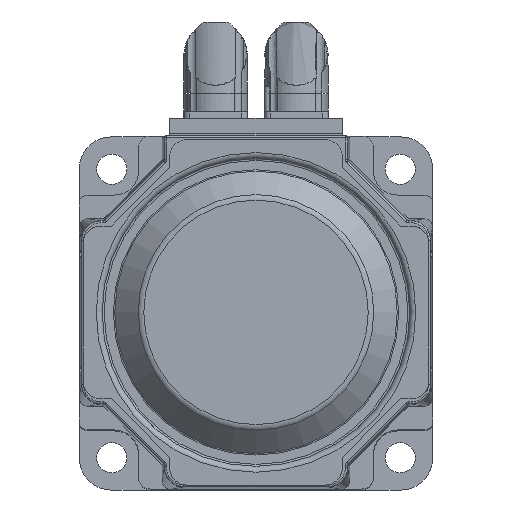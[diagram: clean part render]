
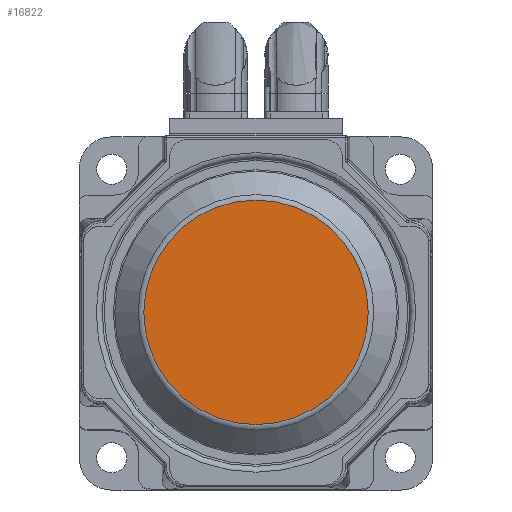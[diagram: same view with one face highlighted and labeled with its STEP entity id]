
A CAD part, top view. The second image highlights one B-rep face of the part: STEP entity #16822.
In plain terms, the highlighted planar face has unit normal (0, 0, 1).
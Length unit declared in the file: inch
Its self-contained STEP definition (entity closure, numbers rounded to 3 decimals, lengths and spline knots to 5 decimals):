
#16802=CARTESIAN_POINT('',(0.0,1.78622,1.69));
#16803=VERTEX_POINT('',#16802);
#16804=CARTESIAN_POINT('',(0.0,0.0,1.69));
#16805=DIRECTION('',(0.0,0.0,-1.0));
#16806=DIRECTION('',(0.0,1.0,0.0));
#16807=AXIS2_PLACEMENT_3D('',#16804,#16805,#16806);
#16808=CIRCLE('',#16807,1.78622);
#16809=EDGE_CURVE('',#16803,#16803,#16808,.T.);
#16814=CARTESIAN_POINT('',(0.0,0.89311,1.69));
#16815=DIRECTION('',(0.0,0.0,1.0));
#16816=DIRECTION('',(1.0,0.0,0.0));
#16817=AXIS2_PLACEMENT_3D('',#16814,#16815,#16816);
#16818=PLANE('',#16817);
#16819=ORIENTED_EDGE('',*,*,#16809,.F.);
#16820=EDGE_LOOP('',(#16819));
#16821=FACE_OUTER_BOUND('',#16820,.T.);
#16822=ADVANCED_FACE('',(#16821),#16818,.T.);
